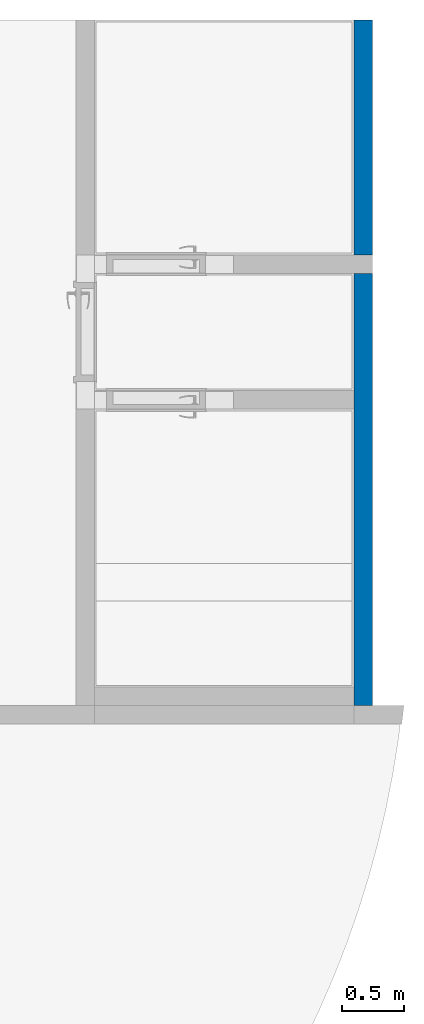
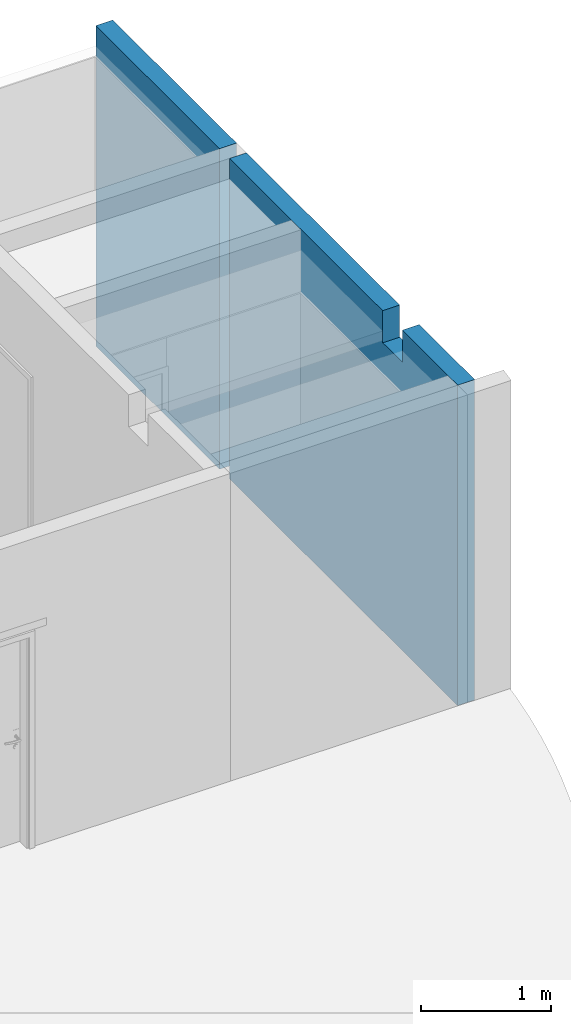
# One storey, part 16 of 17: 1 wall.
"""IFC4 building model written with IfcOpenShell, lengths in millimetres."""

from ifc_helpers import new_model, entity, si_unit, converted_unit, derived_unit, direction, frame, origin_with_axes, place, context, subcontext, project, spatial, polygons, material, constituent, constituent_set, type_object, element, save


model = new_model("IFC4")

# Units and contexts
model_context = context("Model", 3, precision=0.01, world=origin_with_axes(), true_north=direction((0.0, 1.0)))
body_context = subcontext(model_context, "Body", "Model", "MODEL_VIEW")
ifc_project = project(units=[si_unit("LENGTHUNIT", "METRE", prefix="MILLI"), si_unit("AREAUNIT", "SQUARE_METRE"), si_unit("VOLUMEUNIT", "CUBIC_METRE"), converted_unit("PLANEANGLEUNIT", "DEGREE", entity("IfcPlaneAngleMeasure", 0.0174532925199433), si_unit("PLANEANGLEUNIT", "RADIAN"), dimensions=[0, 0, 0, 0, 0, 0, 0]), converted_unit("TIMEUNIT", "Year", entity("IfcTimeMeasure", 31557600.0), si_unit("TIMEUNIT", "SECOND"), dimensions=[0, 0, 1, 0, 0, 0, 0]), si_unit("MASSUNIT", "GRAM", prefix="KILO"), si_unit("THERMODYNAMICTEMPERATUREUNIT", "DEGREE_CELSIUS"), si_unit("LUMINOUSINTENSITYUNIT", "LUMEN"), si_unit("ENERGYUNIT", "JOULE", prefix="MEGA"), derived_unit("THERMALCONDUCTANCEUNIT", [(si_unit("POWERUNIT", "WATT"), 1), (si_unit("LENGTHUNIT", "METRE"), -1), (si_unit("THERMODYNAMICTEMPERATUREUNIT", "KELVIN"), -1)]), derived_unit("SPECIFICHEATCAPACITYUNIT", [(si_unit("ENERGYUNIT", "JOULE"), 1), (si_unit("MASSUNIT", "GRAM", prefix="KILO"), -1), (si_unit("THERMODYNAMICTEMPERATUREUNIT", "KELVIN"), -1)]), derived_unit("MASSDENSITYUNIT", [(si_unit("MASSUNIT", "GRAM", prefix="KILO"), 1), (si_unit("VOLUMEUNIT", "CUBIC_METRE"), -1)])], contexts=[model_context])

# Site, building, storey
site_placement = place(None, origin_with_axes())
site = spatial("IfcSite", under=ifc_project, at=site_placement, Name="Exteriér", CompositionType="ELEMENT")
building_placement = place(site_placement, origin_with_axes())
building = spatial("IfcBuilding", under=site, at=building_placement, Name="Univerzitní lezecké centrum", CompositionType="ELEMENT")
storey_placement = place(building_placement, frame((0.0, 0.0, 3200.0), z_axis=(0.0, 0.0, 1.0), x_axis=(1.0, 0.0, 0.0)))
storey = spatial("IfcBuildingStorey", under=building, at=storey_placement, Name="2.NP", CompositionType="ELEMENT", Elevation=3200.0)

# Wall
ifc_material = material(Name="Keramické tvárnice nenosné tl. 150 mm")
ifc_constituent = constituent(ifc_material, Name="Keramické tvárnice nenosné tl. 150 mm")
ifc_constituent_set = constituent_set(constituents=[ifc_constituent], Name="!Vnitřní keramická stěna 150 mm - nenosná*")
wall_type = type_object("IfcWallType", Name="!Vnitřní keramická stěna 150 mm - nenosná* 150", PredefinedType="NOTDEFINED")
wall_placement = place(storey_placement, frame((10149.85164885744, 4699.999999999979, -120.000000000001), z_axis=(0.0, 0.0, 1.0), x_axis=(0.0, -1.0, 0.0)))
element("IfcWall", 1, at=wall_placement, inside=storey, type_object=wall_type, material=ifc_constituent_set, Name="St07*", PredefinedType="NOTDEFINED", context=body_context, shape_type="Tessellation", body=[
    polygons([(4700.163433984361, -150.000000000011, 3000.0), (4700.163434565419, 0.0, 3000.0), (2349.999999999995, 0.0, 3000.0), (2349.999999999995, -150.0000000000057, 3000.0), (4700.163434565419, 0.0, 2700.0), (4700.163433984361, -150.000000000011, 2700.0), (5000.163434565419, 0.0, 2700.0), (5000.163434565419, 0.0, 3000.0), (5849.612793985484, 0.0, 3000.0), (5849.612793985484, 0.0, 0.0), (2349.999999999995, 0.0, 0.0), (2349.999999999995, -150.0000000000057, 0.0), (5849.612793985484, -150.0000000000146, 0.0), (5849.612793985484, -150.0000000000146, 3000.0), (5000.163433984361, -150.000000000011, 3000.0), (5000.163433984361, -150.000000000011, 2700.0)], [[[1, 2, 3, 4]], [[5, 2, 1, 6]], [[7, 8, 9, 10, 11, 3, 2, 5]], [[4, 3, 11, 12]], [[6, 1, 4, 12, 13, 14, 15, 16]], [[7, 5, 6, 16]], [[15, 8, 7, 16]], [[8, 15, 14, 9]], [[14, 13, 10, 9]], [[11, 10, 13, 12]]], closed=True),
    polygons([(2199.999999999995, -150.0000000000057, 0.0), (300.0000000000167, -150.0000000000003, 0.0), (300.0000000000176, 0.0, 0.0), (2199.999999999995, 0.0, 0.0), (2199.999999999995, -150.0000000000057, 3000.0), (300.0000000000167, -150.0000000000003, 3000.0), (300.0000000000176, 0.0, 3000.0), (2199.999999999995, 0.0, 3000.0)], [[[1, 2, 3, 4]], [[5, 6, 2, 1]], [[3, 2, 6, 7]], [[4, 3, 7, 8]], [[4, 8, 5, 1]], [[8, 7, 6, 5]]], closed=True),
])

save(model, "model.ifc")
